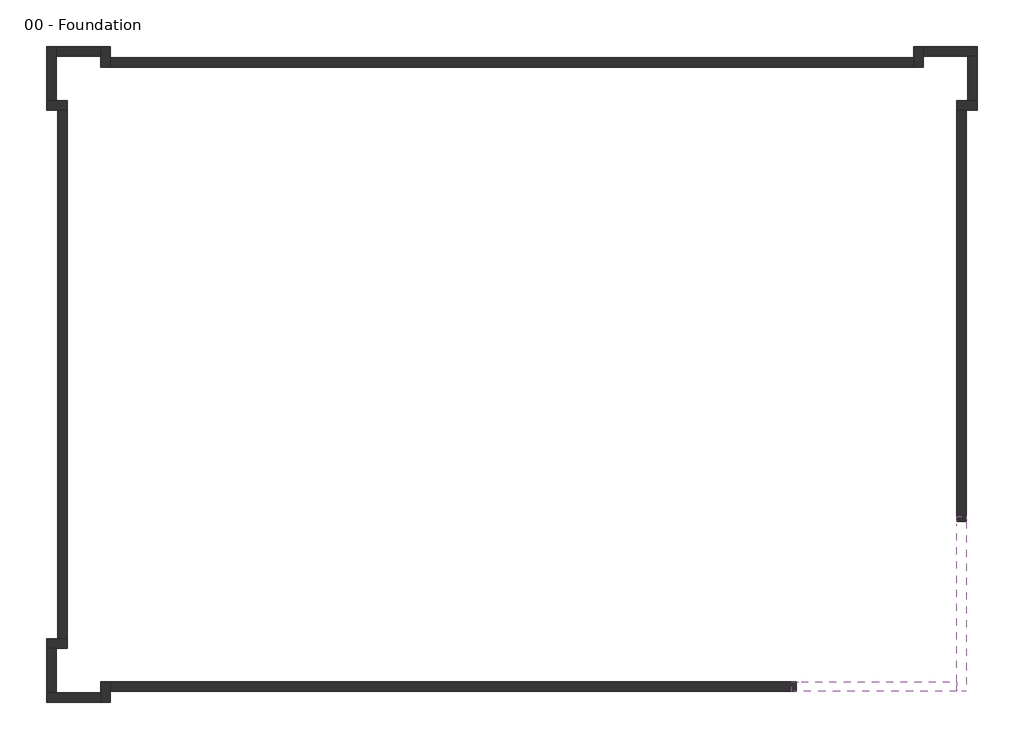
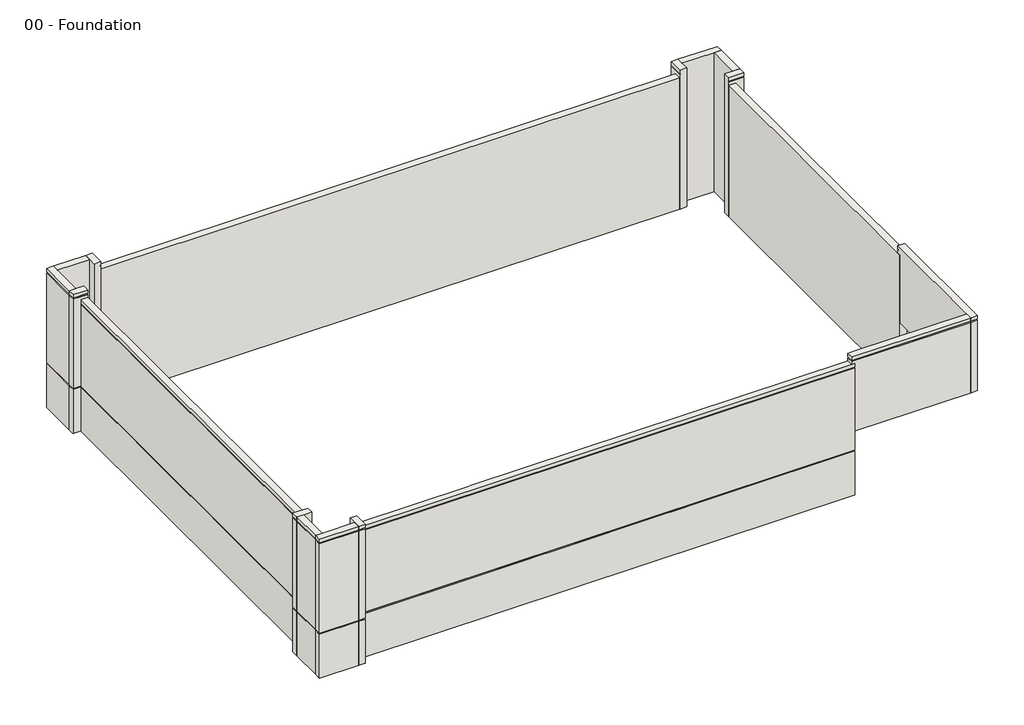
# One storey: 18 walls.
"""IFC4 building model written with IfcOpenShell, lengths in millimetres."""

from ifc_helpers import new_model, si_unit, frame, origin, place, context, project, spatial, polyline, outline, extrude, faceted_brep, element, save

model = new_model("IFC4")

# Units and contexts
model_context = context("Model", 3, world=origin())
ifc_project = project(units=[si_unit("LENGTHUNIT", "METRE", prefix="MILLI")], contexts=[model_context])

# Site, building, storey
site = spatial("IfcSite", under=ifc_project)
building = spatial("IfcBuilding", under=site)
storey = spatial("IfcBuildingStorey", under=building, Name="00 - Foundation", Elevation=-1250.0)

# Walls
placement = place(None, origin())
element("IfcWall", 1, ObjectType="Exterior - Render on Brick on Block @ Entry", at=placement, inside=storey, context=model_context, shape_type="Brep", body=[
    faceted_brep([(18351.5272279, -6696.4313057, 3000.0), (18351.5272279, -13977.9313057, 3000.0), (18351.5272279, -14406.9313057, 3000.0), (18351.5272279, -14406.9313057, 7700.0), (18351.5272279, -14331.9313057, 7700.0), (18351.5272279, -14331.9313057, 7775.0), (18351.5272279, -14406.9313057, 7775.0), (18351.5272279, -14406.9313057, 8000.0), (18351.5272279, -13977.9313057, 8000.0), (18351.5272279, -6910.9313057, 8000.0), (18351.5272279, -6481.9313057, 8000.0), (18351.5272279, -6481.9313057, 7775.0), (18351.5272279, -6556.9313057, 7775.0), (18351.5272279, -6556.9313057, 7700.0), (18351.5272279, -6481.9313057, 7700.0), (18351.5272279, -6481.9313057, 7500.0), (18351.5272279, -6696.4313057, 7500.0), (18780.5272279, -14406.9313057, 3000.0), (18780.5272279, -6696.4313057, 3000.0), (18780.5272279, -6696.4313057, 7200.0), (18780.5272279, -6696.4313057, 7275.0), (18780.5272279, -6696.4313057, 7500.0), (18780.5272279, -6481.9313057, 7500.0), (18780.5272279, -6481.9313057, 7700.0), (18780.5272279, -14406.9313057, 7700.0), (18780.5272279, -6481.9313057, 8000.0), (18780.5272279, -14406.9313057, 8000.0), (18780.5272279, -14406.9313057, 7775.0), (18780.5272279, -6481.9313057, 7775.0), (18705.5272279, -6556.9313057, 7700.0), (18705.5272279, -6556.9313057, 7775.0), (18705.5272279, -14331.9313057, 7775.0), (18705.5272279, -14331.9313057, 7700.0)], [[[0, 1, 2, 3, 4, 5, 6, 7, 8, 9, 10, 11, 12, 13, 14, 15, 16]], [[17, 18, 19, 20, 21, 22, 23, 24]], [[25, 26, 27, 28]], [[2, 1, 0, 18, 17]], [[10, 9, 8, 7, 26, 25]], [[29, 30, 31, 32]], [[2, 17, 24, 3]], [[26, 7, 6, 27]], [[31, 30, 12, 11, 28, 27, 6, 5]], [[29, 32, 4, 3, 24, 23, 14, 13]], [[30, 29, 13, 12]], [[32, 31, 5, 4]], [[18, 0, 16, 21, 20, 19]], [[22, 21, 16, 15]], [[10, 25, 28, 11]], [[22, 15, 14, 23]]]),
])
element("IfcWall", 2, ObjectType="Exterior - Render on Brick on Block @ Entry", at=placement, inside=storey, context=model_context, shape_type="Brep", body=[
    faceted_brep([(18351.5272279, -13977.9313057, 3000.0), (11070.0272279, -13977.9313057, 3000.0), (11070.0272279, -13977.9313057, 7500.0), (10855.5272279, -13977.9313057, 7500.0), (10855.5272279, -13977.9313057, 7700.0), (10930.5272279, -13977.9313057, 7700.0), (10930.5272279, -13977.9313057, 7775.0), (10855.5272279, -13977.9313057, 7775.0), (10855.5272279, -13977.9313057, 8000.0), (11284.5272279, -13977.9313057, 8000.0), (18351.5272279, -13977.9313057, 8000.0), (11070.0272279, -14406.9313057, 3000.0), (18351.5272279, -14406.9313057, 3000.0), (18351.5272279, -14406.9313057, 7700.0), (10855.5272279, -14406.9313057, 7700.0), (10855.5272279, -14406.9313057, 7500.0), (11070.0272279, -14406.9313057, 7500.0), (11070.0272279, -14406.9313057, 7275.0), (11070.0272279, -14406.9313057, 7200.0), (18351.5272279, -14406.9313057, 8000.0), (10855.5272279, -14406.9313057, 8000.0), (10855.5272279, -14406.9313057, 7775.0), (18351.5272279, -14406.9313057, 7775.0), (18351.5272279, -14331.9313057, 7700.0), (18351.5272279, -14331.9313057, 7775.0), (10930.5272279, -14331.9313057, 7775.0), (10930.5272279, -14331.9313057, 7700.0)], [[[0, 1, 2, 3, 4, 5, 6, 7, 8, 9, 10]], [[11, 12, 13, 14, 15, 16, 17, 18]], [[19, 20, 21, 22]], [[1, 0, 12, 11]], [[10, 9, 8, 20, 19]], [[23, 24, 25, 26]], [[0, 10, 19, 22, 24, 23, 13, 12]], [[22, 21, 7, 6, 25, 24]], [[14, 13, 23, 26, 5, 4]], [[26, 25, 6, 5]], [[1, 11, 18, 17, 16, 2]], [[3, 2, 16, 15]], [[3, 15, 14, 4]], [[20, 8, 7, 21]]]),
])
element("IfcWall", 3, ObjectType="Exterior - Render on Brick on Block", at=placement, inside=storey, context=model_context, shape_type="Brep", body=[
    faceted_brep([(11070.0272279, -13977.9313057, -1250.0), (-20031.4727721, -13977.9313057, -1250.0), (-20031.4727721, -13977.9313057, 7500.0), (-12988.7227721, -13977.9313057, 7500.0), (-12850.2227721, -13977.9313057, 7500.0), (10855.5272279, -13977.9313057, 7500.0), (11070.0272279, -13977.9313057, 7500.0), (11070.0272279, -13977.9313057, 3000.0), (11070.0272279, -14406.9313057, 7500.0), (-20031.4727721, -14406.9313057, 7500.0), (-20031.4727721, -14406.9313057, 7275.0), (11070.0272279, -14406.9313057, 7275.0), (-20031.4727721, -14406.9313057, -1250.0), (11070.0272279, -14406.9313057, -1250.0), (11070.0272279, -14406.9313057, 1675.0), (-20031.4727721, -14406.9313057, 1675.0), (-20031.4727721, -14406.9313057, 1750.0), (11070.0272279, -14406.9313057, 1750.0), (11070.0272279, -14406.9313057, 7200.0), (-20031.4727721, -14406.9313057, 7200.0), (11070.0272279, -14331.9313057, 7275.0), (11070.0272279, -14331.9313057, 7200.0), (11070.0272279, -14331.9313057, 1750.0), (11070.0272279, -14331.9313057, 1675.0), (11070.0272279, -14381.9313057, -1250.0), (-20031.4727721, -14381.9313057, -1250.0), (-20031.4727721, -14331.9313057, 1750.0), (-20031.4727721, -14331.9313057, 1675.0), (-20031.4727721, -14331.9313057, 7275.0), (-20031.4727721, -14331.9313057, 7200.0)], [[[0, 1, 2, 3, 4, 5, 6, 7]], [[8, 9, 10, 11]], [[12, 13, 14, 15]], [[16, 17, 18, 19]], [[6, 5, 4, 3, 2, 9, 8]], [[0, 7, 6, 8, 11, 20, 21, 18, 17, 22, 23, 14, 13, 24]], [[1, 0, 24, 25]], [[24, 13, 12, 25]], [[17, 16, 26, 22]], [[15, 14, 23, 27]], [[23, 22, 26, 27]], [[28, 20, 11, 10]], [[21, 29, 19, 18]], [[20, 28, 29, 21]], [[2, 1, 25, 12, 15, 27, 26, 16, 19, 29, 28, 10, 9]]]),
])
element("IfcWall", 4, ObjectType="Exterior - Render on Brick on Block", at=placement, inside=storey, context=model_context, shape_type="Brep", body=[
    faceted_brep([(-20460.4727721, -13977.9313057, -1250.0), (-20460.4727721, -14477.7313057, -1250.0), (-20460.4727721, -14906.7313057, -1250.0), (-20460.4727721, -14906.7313057, 1675.0), (-20460.4727721, -14831.7313057, 1675.0), (-20460.4727721, -14831.7313057, 1750.0), (-20460.4727721, -14906.7313057, 1750.0), (-20460.4727721, -14906.7313057, 7700.0), (-20460.4727721, -14831.7313057, 7700.0), (-20460.4727721, -14831.7313057, 7775.0), (-20460.4727721, -14906.7313057, 7775.0), (-20460.4727721, -14906.7313057, 8000.0), (-20460.4727721, -14477.7313057, 8000.0), (-20460.4727721, -13977.9313057, 8000.0), (-20031.4727721, -13977.9313057, 8000.0), (-20031.4727721, -14906.7313057, 8000.0), (-20031.4727721, -14906.7313057, 7775.0), (-20031.4727721, -13977.9313057, 7775.0), (-20031.4727721, -14906.7313057, -1250.0), (-20031.4727721, -14406.9313057, -1250.0), (-20031.4727721, -13977.9313057, -1250.0), (-20031.4727721, -13977.9313057, 7500.0), (-20031.4727721, -13977.9313057, 7700.0), (-20031.4727721, -14906.7313057, 7700.0), (-20031.4727721, -14906.7313057, 1750.0), (-20031.4727721, -14406.9313057, 1750.0), (-20031.4727721, -14331.9313057, 1750.0), (-20031.4727721, -14331.9313057, 1675.0), (-20031.4727721, -14406.9313057, 1675.0), (-20031.4727721, -14906.7313057, 1675.0), (-20056.4727721, -13977.9313057, -1250.0), (-20056.4727721, -14906.7313057, -1250.0), (-20106.4727721, -14331.9313057, 1675.0), (-20106.4727721, -14331.9313057, 1750.0), (-20106.4727721, -14831.7313057, 1750.0), (-20106.4727721, -14831.7313057, 1675.0), (-20106.4727721, -14831.7313057, 7775.0), (-20106.4727721, -13977.9313057, 7775.0), (-20106.4727721, -13977.9313057, 7700.0), (-20106.4727721, -14831.7313057, 7700.0)], [[[0, 1, 2, 3, 4, 5, 6, 7, 8, 9, 10, 11, 12, 13]], [[14, 15, 16, 17]], [[18, 19, 20, 21, 22, 23, 24, 25, 26, 27, 28, 29]], [[13, 12, 11, 15, 14]], [[2, 1, 0, 30, 31]], [[32, 33, 34, 35]], [[36, 37, 17, 16, 10, 9]], [[38, 39, 8, 7, 23, 22]], [[37, 36, 39, 38]], [[0, 13, 14, 17, 37, 38, 22, 21, 20, 30]], [[20, 19, 18, 31, 30]], [[34, 33, 26, 25, 24, 6, 5]], [[32, 35, 4, 3, 29, 28, 27]], [[33, 32, 27, 26]], [[15, 11, 10, 16]], [[2, 31, 18, 29, 3]], [[6, 24, 23, 7]], [[35, 34, 5, 4]], [[39, 36, 9, 8]]]),
])
element("IfcWall", 5, ObjectType="Exterior - Render on Brick on Block", at=placement, inside=storey, context=model_context, shape_type="Brep", body=[
    faceted_brep([(-20460.4727721, -14477.7313057, -1250.0), (-22490.4727721, -14477.7313057, -1250.0), (-22919.4727721, -14477.7313057, -1250.0), (-22919.4727721, -14477.7313057, 1675.0), (-22844.4727721, -14477.7313057, 1675.0), (-22844.4727721, -14477.7313057, 1750.0), (-22919.4727721, -14477.7313057, 1750.0), (-22919.4727721, -14477.7313057, 7700.0), (-22844.4727721, -14477.7313057, 7700.0), (-22844.4727721, -14477.7313057, 7775.0), (-22919.4727721, -14477.7313057, 7775.0), (-22919.4727721, -14477.7313057, 8000.0), (-22490.4727721, -14477.7313057, 8000.0), (-20460.4727721, -14477.7313057, 8000.0), (-20460.4727721, -14906.7313057, 8000.0), (-22919.4727721, -14906.7313057, 8000.0), (-22919.4727721, -14906.7313057, 7775.0), (-20460.4727721, -14906.7313057, 7775.0), (-22919.4727721, -14906.7313057, -1250.0), (-20460.4727721, -14906.7313057, -1250.0), (-20460.4727721, -14906.7313057, 1675.0), (-22919.4727721, -14906.7313057, 1675.0), (-22919.4727721, -14906.7313057, 1750.0), (-20460.4727721, -14906.7313057, 1750.0), (-20460.4727721, -14906.7313057, 7700.0), (-22919.4727721, -14906.7313057, 7700.0), (-20460.4727721, -14881.7313057, -1250.0), (-22919.4727721, -14881.7313057, -1250.0), (-22844.4727721, -14831.7313057, 1675.0), (-20460.4727721, -14831.7313057, 1675.0), (-20460.4727721, -14831.7313057, 1750.0), (-22844.4727721, -14831.7313057, 1750.0), (-22844.4727721, -14831.7313057, 7775.0), (-22844.4727721, -14831.7313057, 7700.0), (-20460.4727721, -14831.7313057, 7700.0), (-20460.4727721, -14831.7313057, 7775.0)], [[[0, 1, 2, 3, 4, 5, 6, 7, 8, 9, 10, 11, 12, 13]], [[14, 15, 16, 17]], [[18, 19, 20, 21]], [[22, 23, 24, 25]], [[13, 12, 11, 15, 14]], [[2, 1, 0, 26, 27]], [[28, 29, 30, 31]], [[32, 33, 34, 35]], [[0, 13, 14, 17, 35, 34, 24, 23, 30, 29, 20, 19, 26]], [[19, 18, 27, 26]], [[31, 30, 23, 22, 6, 5]], [[29, 28, 4, 3, 21, 20]], [[9, 32, 35, 17, 16, 10]], [[34, 33, 8, 7, 25, 24]], [[15, 11, 10, 16]], [[2, 27, 18, 21, 3]], [[6, 22, 25, 7]], [[28, 31, 5, 4]], [[33, 32, 9, 8]]]),
])
element("IfcWall", 6, ObjectType="Exterior - Render on Brick on Block", at=placement, inside=storey, context=model_context, shape_type="SweptSolid", body=[
    extrude(outline(polyline([(-1250.0, -22490.4727721), (8000.0, -22490.4727721), (8000.0, -22919.4727721), (7775.0, -22919.4727721), (7775.0, -22844.4727721), (7700.0, -22844.4727721), (7700.0, -22919.4727721), (1750.0, -22919.4727721), (1750.0, -22844.4727721), (1675.0, -22844.4727721), (1675.0, -22919.4727721), (-1250.0, -22919.4727721), (-1250.0, -22894.4727721), (-1250.0, -22490.4727721)])), frame((0.0, -14477.7313057, 0.0), z_axis=(0.0, 1.0, 0.0), x_axis=(0.0, 0.0, 1.0)), (0.0, 0.0, 1.0), 2030.0),
])
element("IfcWall", 7, ObjectType="Exterior - Render on Brick on Block", at=placement, inside=storey, context=model_context, shape_type="Brep", body=[
    faceted_brep([(-22919.4727721, -12447.7313057, -1250.0), (-22490.4727721, -12447.7313057, -1250.0), (-21990.4727721, -12447.7313057, -1250.0), (-21990.4727721, -12447.7313057, 8000.0), (-22490.4727721, -12447.7313057, 8000.0), (-22919.4727721, -12447.7313057, 8000.0), (-22919.4727721, -12447.7313057, 7775.0), (-22844.4727721, -12447.7313057, 7775.0), (-22844.4727721, -12447.7313057, 7700.0), (-22919.4727721, -12447.7313057, 7700.0), (-22919.4727721, -12447.7313057, 1750.0), (-22844.4727721, -12447.7313057, 1750.0), (-22844.4727721, -12447.7313057, 1675.0), (-22919.4727721, -12447.7313057, 1675.0), (-22919.4727721, -12018.7313057, 8000.0), (-21990.4727721, -12018.7313057, 8000.0), (-21990.4727721, -12018.7313057, 7775.0), (-22919.4727721, -12018.7313057, 7775.0), (-21990.4727721, -12018.7313057, -1250.0), (-22419.4727721, -12018.7313057, -1250.0), (-22919.4727721, -12018.7313057, -1250.0), (-22919.4727721, -12018.7313057, 1675.0), (-22419.4727721, -12018.7313057, 1675.0), (-22344.4727721, -12018.7313057, 1675.0), (-22344.4727721, -12018.7313057, 1750.0), (-22419.4727721, -12018.7313057, 1750.0), (-22919.4727721, -12018.7313057, 1750.0), (-22919.4727721, -12018.7313057, 7700.0), (-21990.4727721, -12018.7313057, 7700.0), (-21990.4727721, -12018.7313057, 7500.0), (-22919.4727721, -12043.7313057, -1250.0), (-21990.4727721, -12043.7313057, -1250.0), (-22844.4727721, -12093.7313057, 1675.0), (-22844.4727721, -12093.7313057, 1750.0), (-22344.4727721, -12093.7313057, 1750.0), (-22344.4727721, -12093.7313057, 1675.0), (-22844.4727721, -12093.7313057, 7775.0), (-21990.4727721, -12093.7313057, 7775.0), (-21990.4727721, -12093.7313057, 7700.0), (-22844.4727721, -12093.7313057, 7700.0)], [[[0, 1, 2, 3, 4, 5, 6, 7, 8, 9, 10, 11, 12, 13]], [[14, 15, 16, 17]], [[18, 19, 20, 21, 22, 23, 24, 25, 26, 27, 28, 29]], [[5, 4, 3, 15, 14]], [[2, 1, 0, 30, 31]], [[32, 33, 34, 35]], [[36, 37, 38, 39]], [[5, 14, 17, 6]], [[30, 0, 13, 21, 20]], [[26, 10, 9, 27]], [[20, 19, 18, 31, 30]], [[34, 33, 11, 10, 26, 25, 24]], [[32, 35, 23, 22, 21, 13, 12]], [[33, 32, 12, 11]], [[37, 36, 7, 6, 17, 16]], [[39, 38, 28, 27, 9, 8]], [[36, 39, 8, 7]], [[3, 2, 31, 18, 29, 28, 38, 37, 16, 15]], [[35, 34, 24, 23]]]),
])
element("IfcWall", 8, ObjectType="Exterior - Render on Brick on Block", at=placement, inside=storey, context=model_context, shape_type="Brep", body=[
    faceted_brep([(-21990.4727721, -12018.7313057, -1250.0), (-21990.4727721, 11955.0686943, -1250.0), (-21990.4727721, 11955.0686943, 7500.0), (-21990.4727721, -3637.6813057, 7500.0), (-21990.4727721, -3776.1813057, 7500.0), (-21990.4727721, -9826.1813057, 7500.0), (-21990.4727721, -9964.6813057, 7500.0), (-21990.4727721, -12018.7313057, 7500.0), (-22419.4727721, -12018.7313057, 7500.0), (-22419.4727721, 11955.0686943, 7500.0), (-22419.4727721, 11955.0686943, 7275.0), (-22419.4727721, -12018.7313057, 7275.0), (-22419.4727721, 11955.0686943, -1250.0), (-22419.4727721, -12018.7313057, -1250.0), (-22419.4727721, -12018.7313057, 1675.0), (-22419.4727721, 11955.0686943, 1675.0), (-22419.4727721, 11955.0686943, 1750.0), (-22419.4727721, -12018.7313057, 1750.0), (-22419.4727721, -12018.7313057, 7200.0), (-22419.4727721, 11955.0686943, 7200.0), (-22394.4727721, -12018.7313057, -1250.0), (-22394.4727721, 11955.0686943, -1250.0), (-22344.4727721, -12018.7313057, 1675.0), (-22344.4727721, -12018.7313057, 1750.0), (-22344.4727721, 11955.0686943, 1750.0), (-22344.4727721, 11955.0686943, 1675.0), (-22344.4727721, 11955.0686943, 7275.0), (-22344.4727721, -12018.7313057, 7275.0), (-22344.4727721, -12018.7313057, 7200.0), (-22344.4727721, 11955.0686943, 7200.0)], [[[0, 1, 2, 3, 4, 5, 6, 7]], [[8, 9, 10, 11]], [[12, 13, 14, 15]], [[16, 17, 18, 19]], [[7, 6, 5, 4, 3, 2, 9, 8]], [[1, 0, 20, 21]], [[22, 23, 24, 25]], [[26, 27, 11, 10]], [[28, 29, 19, 18]], [[27, 26, 29, 28]], [[0, 7, 8, 11, 27, 28, 18, 17, 23, 22, 14, 13, 20]], [[13, 12, 21, 20]], [[17, 16, 24, 23]], [[15, 14, 22, 25]], [[2, 1, 21, 12, 15, 25, 24, 16, 19, 29, 26, 10, 9]]]),
])
element("IfcWall", 9, ObjectType="Exterior - Render on Brick on Block", at=placement, inside=storey, context=model_context, shape_type="Brep", body=[
    faceted_brep([(-21990.4727721, 12384.0686943, -1250.0), (-22490.4727721, 12384.0686943, -1250.0), (-22919.4727721, 12384.0686943, -1250.0), (-22919.4727721, 12384.0686943, 1675.0), (-22844.4727721, 12384.0686943, 1675.0), (-22844.4727721, 12384.0686943, 1750.0), (-22919.4727721, 12384.0686943, 1750.0), (-22919.4727721, 12384.0686943, 7700.0), (-22844.4727721, 12384.0686943, 7700.0), (-22844.4727721, 12384.0686943, 7775.0), (-22919.4727721, 12384.0686943, 7775.0), (-22919.4727721, 12384.0686943, 8000.0), (-22490.4727721, 12384.0686943, 8000.0), (-21990.4727721, 12384.0686943, 8000.0), (-21990.4727721, 11955.0686943, 8000.0), (-22919.4727721, 11955.0686943, 8000.0), (-22919.4727721, 11955.0686943, 7775.0), (-21990.4727721, 11955.0686943, 7775.0), (-22919.4727721, 11955.0686943, -1250.0), (-22419.4727721, 11955.0686943, -1250.0), (-21990.4727721, 11955.0686943, -1250.0), (-21990.4727721, 11955.0686943, 7500.0), (-21990.4727721, 11955.0686943, 7700.0), (-22919.4727721, 11955.0686943, 7700.0), (-22919.4727721, 11955.0686943, 1750.0), (-22419.4727721, 11955.0686943, 1750.0), (-22344.4727721, 11955.0686943, 1750.0), (-22344.4727721, 11955.0686943, 1675.0), (-22419.4727721, 11955.0686943, 1675.0), (-22919.4727721, 11955.0686943, 1675.0), (-21990.4727721, 11980.0686943, -1250.0), (-22919.4727721, 11980.0686943, -1250.0), (-22344.4727721, 12030.0686943, 1675.0), (-22344.4727721, 12030.0686943, 1750.0), (-22844.4727721, 12030.0686943, 1750.0), (-22844.4727721, 12030.0686943, 1675.0), (-22844.4727721, 12030.0686943, 7775.0), (-21990.4727721, 12030.0686943, 7775.0), (-21990.4727721, 12030.0686943, 7700.0), (-22844.4727721, 12030.0686943, 7700.0)], [[[0, 1, 2, 3, 4, 5, 6, 7, 8, 9, 10, 11, 12, 13]], [[14, 15, 16, 17]], [[18, 19, 20, 21, 22, 23, 24, 25, 26, 27, 28, 29]], [[13, 12, 11, 15, 14]], [[2, 1, 0, 30, 31]], [[32, 33, 34, 35]], [[36, 37, 17, 16, 10, 9]], [[38, 39, 8, 7, 23, 22]], [[37, 36, 39, 38]], [[0, 13, 14, 17, 37, 38, 22, 21, 20, 30]], [[20, 19, 18, 31, 30]], [[34, 33, 26, 25, 24, 6, 5]], [[32, 35, 4, 3, 29, 28, 27]], [[33, 32, 27, 26]], [[15, 11, 10, 16]], [[2, 31, 18, 29, 3]], [[6, 24, 23, 7]], [[35, 34, 5, 4]], [[39, 36, 9, 8]]]),
])
element("IfcWall", 10, ObjectType="Exterior - Render on Brick on Block", at=placement, inside=storey, context=model_context, shape_type="Brep", body=[
    faceted_brep([(-22490.4727721, 12384.0686943, -1250.0), (-22490.4727721, 14414.0686943, -1250.0), (-22490.4727721, 14843.0686943, -1250.0), (-22490.4727721, 14843.0686943, 1675.0), (-22490.4727721, 14768.0686943, 1675.0), (-22490.4727721, 14768.0686943, 1750.0), (-22490.4727721, 14843.0686943, 1750.0), (-22490.4727721, 14843.0686943, 7700.0), (-22490.4727721, 14768.0686943, 7700.0), (-22490.4727721, 14768.0686943, 7775.0), (-22490.4727721, 14843.0686943, 7775.0), (-22490.4727721, 14843.0686943, 8000.0), (-22490.4727721, 14414.0686943, 8000.0), (-22490.4727721, 12384.0686943, 8000.0), (-22919.4727721, 12384.0686943, 8000.0), (-22919.4727721, 14843.0686943, 8000.0), (-22919.4727721, 14843.0686943, 7775.0), (-22919.4727721, 12384.0686943, 7775.0), (-22919.4727721, 14843.0686943, -1250.0), (-22919.4727721, 12384.0686943, -1250.0), (-22919.4727721, 12384.0686943, 1675.0), (-22919.4727721, 14843.0686943, 1675.0), (-22919.4727721, 14843.0686943, 1750.0), (-22919.4727721, 12384.0686943, 1750.0), (-22919.4727721, 12384.0686943, 7700.0), (-22919.4727721, 14843.0686943, 7700.0), (-22894.4727721, 12384.0686943, -1250.0), (-22894.4727721, 14843.0686943, -1250.0), (-22844.4727721, 14768.0686943, 1675.0), (-22844.4727721, 12384.0686943, 1675.0), (-22844.4727721, 12384.0686943, 1750.0), (-22844.4727721, 14768.0686943, 1750.0), (-22844.4727721, 14768.0686943, 7775.0), (-22844.4727721, 14768.0686943, 7700.0), (-22844.4727721, 12384.0686943, 7700.0), (-22844.4727721, 12384.0686943, 7775.0)], [[[0, 1, 2, 3, 4, 5, 6, 7, 8, 9, 10, 11, 12, 13]], [[14, 15, 16, 17]], [[18, 19, 20, 21]], [[22, 23, 24, 25]], [[13, 12, 11, 15, 14]], [[2, 1, 0, 26, 27]], [[28, 29, 30, 31]], [[32, 33, 34, 35]], [[0, 13, 14, 17, 35, 34, 24, 23, 30, 29, 20, 19, 26]], [[19, 18, 27, 26]], [[31, 30, 23, 22, 6, 5]], [[29, 28, 4, 3, 21, 20]], [[9, 32, 35, 17, 16, 10]], [[34, 33, 8, 7, 25, 24]], [[15, 11, 10, 16]], [[2, 27, 18, 21, 3]], [[6, 22, 25, 7]], [[28, 31, 5, 4]], [[33, 32, 9, 8]]]),
])
element("IfcWall", 11, ObjectType="Exterior - Render on Brick on Block", at=placement, inside=storey, context=model_context, shape_type="SweptSolid", body=[
    extrude(outline(polyline([(14414.0686943, -1250.0), (14414.0686943, 8000.0), (14843.0686943, 8000.0), (14843.0686943, 7775.0), (14768.0686943, 7775.0), (14768.0686943, 7700.0), (14843.0686943, 7700.0), (14843.0686943, 1750.0), (14768.0686943, 1750.0), (14768.0686943, 1675.0), (14843.0686943, 1675.0), (14843.0686943, -1250.0), (14818.0686943, -1250.0), (14414.0686943, -1250.0)])), frame((-22490.4727721, 0.0, 0.0), z_axis=(1.0, 0.0, 0.0), x_axis=(0.0, 1.0, 0.0)), (0.0, 0.0, 1.0), 2030.0),
])
element("IfcWall", 12, ObjectType="Exterior - Render on Brick on Block", at=placement, inside=storey, context=model_context, shape_type="Brep", body=[
    faceted_brep([(-20460.4727721, 14843.0686943, -1250.0), (-20460.4727721, 14414.0686943, -1250.0), (-20460.4727721, 13914.0686943, -1250.0), (-20460.4727721, 13914.0686943, 8000.0), (-20460.4727721, 14414.0686943, 8000.0), (-20460.4727721, 14843.0686943, 8000.0), (-20460.4727721, 14843.0686943, 7775.0), (-20460.4727721, 14768.0686943, 7775.0), (-20460.4727721, 14768.0686943, 7700.0), (-20460.4727721, 14843.0686943, 7700.0), (-20460.4727721, 14843.0686943, 1750.0), (-20460.4727721, 14768.0686943, 1750.0), (-20460.4727721, 14768.0686943, 1675.0), (-20460.4727721, 14843.0686943, 1675.0), (-20031.4727721, 14843.0686943, 8000.0), (-20031.4727721, 13914.0686943, 8000.0), (-20031.4727721, 13914.0686943, 7775.0), (-20031.4727721, 14843.0686943, 7775.0), (-20031.4727721, 13914.0686943, -1250.0), (-20031.4727721, 14343.0686943, -1250.0), (-20031.4727721, 14843.0686943, -1250.0), (-20031.4727721, 14843.0686943, 1675.0), (-20031.4727721, 14343.0686943, 1675.0), (-20031.4727721, 14268.0686943, 1675.0), (-20031.4727721, 14268.0686943, 1750.0), (-20031.4727721, 14343.0686943, 1750.0), (-20031.4727721, 14843.0686943, 1750.0), (-20031.4727721, 14843.0686943, 7700.0), (-20031.4727721, 13914.0686943, 7700.0), (-20031.4727721, 13914.0686943, 7500.0), (-20056.4727721, 14843.0686943, -1250.0), (-20056.4727721, 13914.0686943, -1250.0), (-20106.4727721, 14768.0686943, 1675.0), (-20106.4727721, 14768.0686943, 1750.0), (-20106.4727721, 14268.0686943, 1750.0), (-20106.4727721, 14268.0686943, 1675.0), (-20106.4727721, 14768.0686943, 7775.0), (-20106.4727721, 13914.0686943, 7775.0), (-20106.4727721, 13914.0686943, 7700.0), (-20106.4727721, 14768.0686943, 7700.0)], [[[0, 1, 2, 3, 4, 5, 6, 7, 8, 9, 10, 11, 12, 13]], [[14, 15, 16, 17]], [[18, 19, 20, 21, 22, 23, 24, 25, 26, 27, 28, 29]], [[5, 4, 3, 15, 14]], [[2, 1, 0, 30, 31]], [[32, 33, 34, 35]], [[36, 37, 38, 39]], [[5, 14, 17, 6]], [[30, 0, 13, 21, 20]], [[26, 10, 9, 27]], [[20, 19, 18, 31, 30]], [[34, 33, 11, 10, 26, 25, 24]], [[32, 35, 23, 22, 21, 13, 12]], [[33, 32, 12, 11]], [[37, 36, 7, 6, 17, 16]], [[39, 38, 28, 27, 9, 8]], [[36, 39, 8, 7]], [[3, 2, 31, 18, 29, 28, 38, 37, 16, 15]], [[35, 34, 24, 23]]]),
])
element("IfcWall", 13, ObjectType="Exterior - Render on Brick on Block", at=placement, inside=storey, context=model_context, shape_type="Brep", body=[
    faceted_brep([(-20031.4727721, 13914.0686943, -1250.0), (16392.5272279, 13914.0686943, -1250.0), (16392.5272279, 13914.0686943, 7500.0), (-14950.2227721, 13914.0686943, 7500.0), (-15088.7227721, 13914.0686943, 7500.0), (-20031.4727721, 13914.0686943, 7500.0), (-20031.4727721, 14343.0686943, 7500.0), (16392.5272279, 14343.0686943, 7500.0), (16392.5272279, 14343.0686943, 7275.0), (-20031.4727721, 14343.0686943, 7275.0), (16392.5272279, 14343.0686943, -1250.0), (-20031.4727721, 14343.0686943, -1250.0), (-20031.4727721, 14343.0686943, 1675.0), (16392.5272279, 14343.0686943, 1675.0), (16392.5272279, 14343.0686943, 1750.0), (-20031.4727721, 14343.0686943, 1750.0), (-20031.4727721, 14343.0686943, 7200.0), (16392.5272279, 14343.0686943, 7200.0), (-20031.4727721, 14318.0686943, -1250.0), (16392.5272279, 14318.0686943, -1250.0), (-20031.4727721, 14268.0686943, 1675.0), (-20031.4727721, 14268.0686943, 1750.0), (16392.5272279, 14268.0686943, 1750.0), (16392.5272279, 14268.0686943, 1675.0), (16392.5272279, 14268.0686943, 7275.0), (-20031.4727721, 14268.0686943, 7275.0), (-20031.4727721, 14268.0686943, 7200.0), (16392.5272279, 14268.0686943, 7200.0)], [[[0, 1, 2, 3, 4, 5]], [[6, 7, 8, 9]], [[10, 11, 12, 13]], [[14, 15, 16, 17]], [[5, 4, 3, 2, 7, 6]], [[1, 0, 18, 19]], [[20, 21, 22, 23]], [[24, 25, 9, 8]], [[26, 27, 17, 16]], [[25, 24, 27, 26]], [[0, 5, 6, 9, 25, 26, 16, 15, 21, 20, 12, 11, 18]], [[11, 10, 19, 18]], [[15, 14, 22, 21]], [[13, 12, 20, 23]], [[2, 1, 19, 10, 13, 23, 22, 14, 17, 27, 24, 8, 7]]]),
])
element("IfcWall", 14, ObjectType="Exterior - Render on Brick on Block", at=placement, inside=storey, context=model_context, shape_type="Brep", body=[
    faceted_brep([(16821.5272279, 13914.0686943, -1250.0), (16821.5272279, 14414.0686943, -1250.0), (16821.5272279, 14843.0686943, -1250.0), (16821.5272279, 14843.0686943, 1675.0), (16821.5272279, 14768.0686943, 1675.0), (16821.5272279, 14768.0686943, 1750.0), (16821.5272279, 14843.0686943, 1750.0), (16821.5272279, 14843.0686943, 7700.0), (16821.5272279, 14768.0686943, 7700.0), (16821.5272279, 14768.0686943, 7775.0), (16821.5272279, 14843.0686943, 7775.0), (16821.5272279, 14843.0686943, 8000.0), (16821.5272279, 14414.0686943, 8000.0), (16821.5272279, 13914.0686943, 8000.0), (16392.5272279, 13914.0686943, 8000.0), (16392.5272279, 14843.0686943, 8000.0), (16392.5272279, 14843.0686943, 7775.0), (16392.5272279, 13914.0686943, 7775.0), (16392.5272279, 14843.0686943, -1250.0), (16392.5272279, 14343.0686943, -1250.0), (16392.5272279, 13914.0686943, -1250.0), (16392.5272279, 13914.0686943, 7500.0), (16392.5272279, 13914.0686943, 7700.0), (16392.5272279, 14843.0686943, 7700.0), (16392.5272279, 14843.0686943, 1750.0), (16392.5272279, 14343.0686943, 1750.0), (16392.5272279, 14268.0686943, 1750.0), (16392.5272279, 14268.0686943, 1675.0), (16392.5272279, 14343.0686943, 1675.0), (16392.5272279, 14843.0686943, 1675.0), (16417.5272279, 13914.0686943, -1250.0), (16417.5272279, 14843.0686943, -1250.0), (16467.5272279, 14268.0686943, 1675.0), (16467.5272279, 14268.0686943, 1750.0), (16467.5272279, 14768.0686943, 1750.0), (16467.5272279, 14768.0686943, 1675.0), (16467.5272279, 14768.0686943, 7775.0), (16467.5272279, 13914.0686943, 7775.0), (16467.5272279, 13914.0686943, 7700.0), (16467.5272279, 14768.0686943, 7700.0)], [[[0, 1, 2, 3, 4, 5, 6, 7, 8, 9, 10, 11, 12, 13]], [[14, 15, 16, 17]], [[18, 19, 20, 21, 22, 23, 24, 25, 26, 27, 28, 29]], [[13, 12, 11, 15, 14]], [[2, 1, 0, 30, 31]], [[32, 33, 34, 35]], [[36, 37, 17, 16, 10, 9]], [[38, 39, 8, 7, 23, 22]], [[37, 36, 39, 38]], [[0, 13, 14, 17, 37, 38, 22, 21, 20, 30]], [[20, 19, 18, 31, 30]], [[34, 33, 26, 25, 24, 6, 5]], [[32, 35, 4, 3, 29, 28, 27]], [[33, 32, 27, 26]], [[15, 11, 10, 16]], [[2, 31, 18, 29, 3]], [[6, 24, 23, 7]], [[35, 34, 5, 4]], [[39, 36, 9, 8]]]),
])
element("IfcWall", 15, ObjectType="Exterior - Render on Brick on Block", at=placement, inside=storey, context=model_context, shape_type="Brep", body=[
    faceted_brep([(16821.5272279, 14414.0686943, -1250.0), (18851.5272279, 14414.0686943, -1250.0), (19280.5272279, 14414.0686943, -1250.0), (19280.5272279, 14414.0686943, 1675.0), (19205.5272279, 14414.0686943, 1675.0), (19205.5272279, 14414.0686943, 1750.0), (19280.5272279, 14414.0686943, 1750.0), (19280.5272279, 14414.0686943, 7700.0), (19205.5272279, 14414.0686943, 7700.0), (19205.5272279, 14414.0686943, 7775.0), (19280.5272279, 14414.0686943, 7775.0), (19280.5272279, 14414.0686943, 8000.0), (18851.5272279, 14414.0686943, 8000.0), (16821.5272279, 14414.0686943, 8000.0), (16821.5272279, 14843.0686943, 8000.0), (19280.5272279, 14843.0686943, 8000.0), (19280.5272279, 14843.0686943, 7775.0), (16821.5272279, 14843.0686943, 7775.0), (19280.5272279, 14843.0686943, -1250.0), (16821.5272279, 14843.0686943, -1250.0), (16821.5272279, 14843.0686943, 1675.0), (19280.5272279, 14843.0686943, 1675.0), (19280.5272279, 14843.0686943, 1750.0), (16821.5272279, 14843.0686943, 1750.0), (16821.5272279, 14843.0686943, 7700.0), (19280.5272279, 14843.0686943, 7700.0), (16821.5272279, 14818.0686943, -1250.0), (19280.5272279, 14818.0686943, -1250.0), (19205.5272279, 14768.0686943, 1675.0), (16821.5272279, 14768.0686943, 1675.0), (16821.5272279, 14768.0686943, 1750.0), (19205.5272279, 14768.0686943, 1750.0), (19205.5272279, 14768.0686943, 7775.0), (19205.5272279, 14768.0686943, 7700.0), (16821.5272279, 14768.0686943, 7700.0), (16821.5272279, 14768.0686943, 7775.0)], [[[0, 1, 2, 3, 4, 5, 6, 7, 8, 9, 10, 11, 12, 13]], [[14, 15, 16, 17]], [[18, 19, 20, 21]], [[22, 23, 24, 25]], [[13, 12, 11, 15, 14]], [[2, 1, 0, 26, 27]], [[28, 29, 30, 31]], [[32, 33, 34, 35]], [[0, 13, 14, 17, 35, 34, 24, 23, 30, 29, 20, 19, 26]], [[19, 18, 27, 26]], [[31, 30, 23, 22, 6, 5]], [[29, 28, 4, 3, 21, 20]], [[9, 32, 35, 17, 16, 10]], [[34, 33, 8, 7, 25, 24]], [[15, 11, 10, 16]], [[2, 27, 18, 21, 3]], [[6, 22, 25, 7]], [[28, 31, 5, 4]], [[33, 32, 9, 8]]]),
])
element("IfcWall", 16, ObjectType="Exterior - Render on Brick on Block", at=placement, inside=storey, context=model_context, shape_type="SweptSolid", body=[
    extrude(outline(polyline([(8000.0, 18851.5272279), (-1250.0, 18851.5272279), (-1250.0, 19255.5272279), (-1250.0, 19280.5272279), (1675.0, 19280.5272279), (1675.0, 19205.5272279), (1750.0, 19205.5272279), (1750.0, 19280.5272279), (7700.0, 19280.5272279), (7700.0, 19205.5272279), (7775.0, 19205.5272279), (7775.0, 19280.5272279), (8000.0, 19280.5272279), (8000.0, 18851.5272279)])), frame((0.0, 12384.0686943, 0.0), z_axis=(0.0, 1.0, 0.0), x_axis=(0.0, 0.0, 1.0)), (0.0, 0.0, 1.0), 2030.0),
])
element("IfcWall", 17, ObjectType="Exterior - Render on Brick on Block", at=placement, inside=storey, context=model_context, shape_type="Brep", body=[
    faceted_brep([(19280.5272279, 12384.0686943, -1250.0), (18851.5272279, 12384.0686943, -1250.0), (18351.5272279, 12384.0686943, -1250.0), (18351.5272279, 12384.0686943, 8000.0), (18851.5272279, 12384.0686943, 8000.0), (19280.5272279, 12384.0686943, 8000.0), (19280.5272279, 12384.0686943, 7775.0), (19205.5272279, 12384.0686943, 7775.0), (19205.5272279, 12384.0686943, 7700.0), (19280.5272279, 12384.0686943, 7700.0), (19280.5272279, 12384.0686943, 1750.0), (19205.5272279, 12384.0686943, 1750.0), (19205.5272279, 12384.0686943, 1675.0), (19280.5272279, 12384.0686943, 1675.0), (19280.5272279, 11955.0686943, 8000.0), (18351.5272279, 11955.0686943, 8000.0), (18351.5272279, 11955.0686943, 7775.0), (19280.5272279, 11955.0686943, 7775.0), (18351.5272279, 11955.0686943, -1250.0), (18780.5272279, 11955.0686943, -1250.0), (19280.5272279, 11955.0686943, -1250.0), (19280.5272279, 11955.0686943, 1675.0), (18780.5272279, 11955.0686943, 1675.0), (18705.5272279, 11955.0686943, 1675.0), (18705.5272279, 11955.0686943, 1750.0), (18780.5272279, 11955.0686943, 1750.0), (19280.5272279, 11955.0686943, 1750.0), (19280.5272279, 11955.0686943, 7700.0), (18351.5272279, 11955.0686943, 7700.0), (18351.5272279, 11955.0686943, 7500.0), (19280.5272279, 11980.0686943, -1250.0), (18351.5272279, 11980.0686943, -1250.0), (19205.5272279, 12030.0686943, 1675.0), (19205.5272279, 12030.0686943, 1750.0), (18705.5272279, 12030.0686943, 1750.0), (18705.5272279, 12030.0686943, 1675.0), (19205.5272279, 12030.0686943, 7775.0), (18351.5272279, 12030.0686943, 7775.0), (18351.5272279, 12030.0686943, 7700.0), (19205.5272279, 12030.0686943, 7700.0)], [[[0, 1, 2, 3, 4, 5, 6, 7, 8, 9, 10, 11, 12, 13]], [[14, 15, 16, 17]], [[18, 19, 20, 21, 22, 23, 24, 25, 26, 27, 28, 29]], [[5, 4, 3, 15, 14]], [[2, 1, 0, 30, 31]], [[32, 33, 34, 35]], [[36, 37, 38, 39]], [[5, 14, 17, 6]], [[30, 0, 13, 21, 20]], [[26, 10, 9, 27]], [[20, 19, 18, 31, 30]], [[34, 33, 11, 10, 26, 25, 24]], [[32, 35, 23, 22, 21, 13, 12]], [[33, 32, 12, 11]], [[37, 36, 7, 6, 17, 16]], [[39, 38, 28, 27, 9, 8]], [[36, 39, 8, 7]], [[3, 2, 31, 18, 29, 28, 38, 37, 16, 15]], [[35, 34, 24, 23]]]),
])
element("IfcWall", 18, ObjectType="Exterior - Render on Brick on Block", at=placement, inside=storey, context=model_context, shape_type="Brep", body=[
    faceted_brep([(18351.5272279, 11955.0686943, -1250.0), (18351.5272279, -6696.4313057, -1250.0), (18351.5272279, -6696.4313057, 3000.0), (18351.5272279, -6696.4313057, 7500.0), (18351.5272279, -6481.9313057, 7500.0), (18351.5272279, 11955.0686943, 7500.0), (18780.5272279, 11955.0686943, 7500.0), (18780.5272279, -6696.4313057, 7500.0), (18780.5272279, -6696.4313057, 7275.0), (18780.5272279, 11955.0686943, 7275.0), (18780.5272279, -6696.4313057, -1250.0), (18780.5272279, 11955.0686943, -1250.0), (18780.5272279, 11955.0686943, 1675.0), (18780.5272279, -6696.4313057, 1675.0), (18780.5272279, -6696.4313057, 1750.0), (18780.5272279, 11955.0686943, 1750.0), (18780.5272279, 11955.0686943, 7200.0), (18780.5272279, -6696.4313057, 7200.0), (18755.5272279, -6696.4313057, -1250.0), (18705.5272279, -6696.4313057, 1675.0), (18705.5272279, -6696.4313057, 1750.0), (18705.5272279, -6696.4313057, 7200.0), (18705.5272279, -6696.4313057, 7275.0), (18755.5272279, 11955.0686943, -1250.0), (18705.5272279, 11955.0686943, 1675.0), (18705.5272279, 11955.0686943, 1750.0), (18705.5272279, 11955.0686943, 7275.0), (18705.5272279, 11955.0686943, 7200.0)], [[[0, 1, 2, 3, 4, 5]], [[6, 7, 8, 9]], [[10, 11, 12, 13]], [[14, 15, 16, 17]], [[3, 2, 1, 18, 10, 13, 19, 20, 14, 17, 21, 22, 8, 7]], [[5, 4, 3, 7, 6]], [[1, 0, 23, 18]], [[20, 19, 24, 25]], [[22, 26, 9, 8]], [[27, 21, 17, 16]], [[26, 22, 21, 27]], [[0, 5, 6, 9, 26, 27, 16, 15, 25, 24, 12, 11, 23]], [[11, 10, 18, 23]], [[20, 25, 15, 14]], [[24, 19, 13, 12]]]),
])

save(model, "model.ifc")
